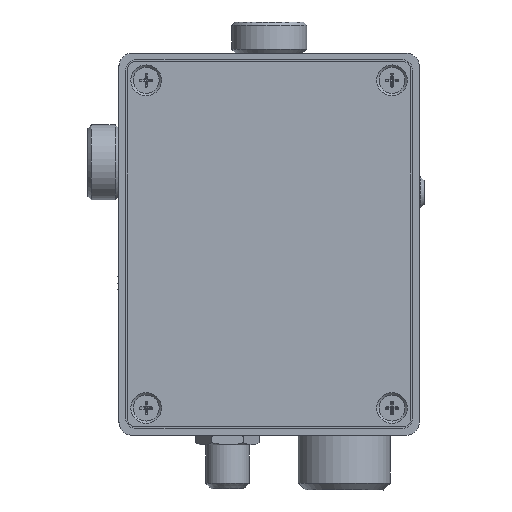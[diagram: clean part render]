
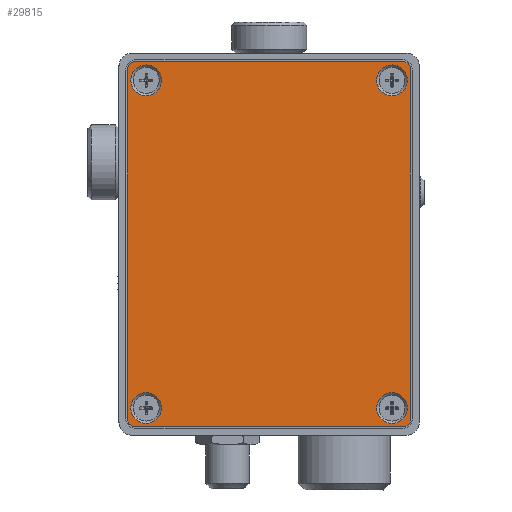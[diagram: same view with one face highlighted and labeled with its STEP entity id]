
A CAD part, front view. The second image highlights one B-rep face of the part: STEP entity #29815.
In plain terms, the highlighted planar face has unit normal (0, -1, 0).
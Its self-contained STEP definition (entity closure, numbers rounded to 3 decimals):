
#1949=FACE_BOUND('',#10383,.T.);
#1950=FACE_BOUND('',#10384,.T.);
#1951=FACE_BOUND('',#10385,.T.);
#1952=FACE_BOUND('',#10386,.T.);
#4481=LINE('',#57416,#7083);
#4482=LINE('',#57420,#7084);
#4483=LINE('',#57424,#7085);
#4484=LINE('',#57427,#7086);
#7083=VECTOR('',#36189,10.);
#7084=VECTOR('',#36192,10.);
#7085=VECTOR('',#36195,10.);
#7086=VECTOR('',#36198,10.);
#8700=FACE_OUTER_BOUND('',#10382,.T.);
#10382=EDGE_LOOP('',(#25559,#25560,#25561,#25562,#25563,#25564,#25565,#25566));
#10383=EDGE_LOOP('',(#25567,#25568));
#10384=EDGE_LOOP('',(#25569,#25570));
#10385=EDGE_LOOP('',(#25571,#25572));
#10386=EDGE_LOOP('',(#25573,#25574));
#10744=CIRCLE('',#31115,1.);
#10745=CIRCLE('',#31116,1.);
#10746=CIRCLE('',#31117,1.);
#10747=CIRCLE('',#31118,1.);
#10748=CIRCLE('',#31119,2.25);
#10749=CIRCLE('',#31120,2.25);
#10750=CIRCLE('',#31121,2.25);
#10751=CIRCLE('',#31122,2.25);
#10752=CIRCLE('',#31123,2.25);
#10753=CIRCLE('',#31124,2.25);
#10754=CIRCLE('',#31125,2.25);
#10755=CIRCLE('',#31126,2.25);
#13457=VERTEX_POINT('',#57412);
#13458=VERTEX_POINT('',#57413);
#13459=VERTEX_POINT('',#57415);
#13460=VERTEX_POINT('',#57417);
#13461=VERTEX_POINT('',#57419);
#13462=VERTEX_POINT('',#57421);
#13463=VERTEX_POINT('',#57423);
#13464=VERTEX_POINT('',#57425);
#13465=VERTEX_POINT('',#57428);
#13466=VERTEX_POINT('',#57429);
#13467=VERTEX_POINT('',#57432);
#13468=VERTEX_POINT('',#57433);
#13469=VERTEX_POINT('',#57436);
#13470=VERTEX_POINT('',#57437);
#13471=VERTEX_POINT('',#57440);
#13472=VERTEX_POINT('',#57441);
#17528=EDGE_CURVE('',#13457,#13458,#10744,.T.);
#17529=EDGE_CURVE('',#13457,#13459,#4481,.T.);
#17530=EDGE_CURVE('',#13460,#13459,#10745,.T.);
#17531=EDGE_CURVE('',#13460,#13461,#4482,.T.);
#17532=EDGE_CURVE('',#13462,#13461,#10746,.T.);
#17533=EDGE_CURVE('',#13462,#13463,#4483,.T.);
#17534=EDGE_CURVE('',#13464,#13463,#10747,.T.);
#17535=EDGE_CURVE('',#13464,#13458,#4484,.T.);
#17536=EDGE_CURVE('',#13465,#13466,#10748,.T.);
#17537=EDGE_CURVE('',#13466,#13465,#10749,.T.);
#17538=EDGE_CURVE('',#13467,#13468,#10750,.T.);
#17539=EDGE_CURVE('',#13468,#13467,#10751,.T.);
#17540=EDGE_CURVE('',#13469,#13470,#10752,.T.);
#17541=EDGE_CURVE('',#13470,#13469,#10753,.T.);
#17542=EDGE_CURVE('',#13471,#13472,#10754,.T.);
#17543=EDGE_CURVE('',#13472,#13471,#10755,.T.);
#25559=ORIENTED_EDGE('',*,*,#17528,.F.);
#25560=ORIENTED_EDGE('',*,*,#17529,.T.);
#25561=ORIENTED_EDGE('',*,*,#17530,.F.);
#25562=ORIENTED_EDGE('',*,*,#17531,.T.);
#25563=ORIENTED_EDGE('',*,*,#17532,.F.);
#25564=ORIENTED_EDGE('',*,*,#17533,.T.);
#25565=ORIENTED_EDGE('',*,*,#17534,.F.);
#25566=ORIENTED_EDGE('',*,*,#17535,.T.);
#25567=ORIENTED_EDGE('',*,*,#17536,.T.);
#25568=ORIENTED_EDGE('',*,*,#17537,.T.);
#25569=ORIENTED_EDGE('',*,*,#17538,.T.);
#25570=ORIENTED_EDGE('',*,*,#17539,.T.);
#25571=ORIENTED_EDGE('',*,*,#17540,.T.);
#25572=ORIENTED_EDGE('',*,*,#17541,.T.);
#25573=ORIENTED_EDGE('',*,*,#17542,.T.);
#25574=ORIENTED_EDGE('',*,*,#17543,.T.);
#26835=PLANE('',#31114);
#29815=ADVANCED_FACE('',(#8700,#1949,#1950,#1951,#1952),#26835,.T.);
#31114=AXIS2_PLACEMENT_3D('',#57411,#36185,#36186);
#31115=AXIS2_PLACEMENT_3D('',#57414,#36187,#36188);
#31116=AXIS2_PLACEMENT_3D('',#57418,#36190,#36191);
#31117=AXIS2_PLACEMENT_3D('',#57422,#36193,#36194);
#31118=AXIS2_PLACEMENT_3D('',#57426,#36196,#36197);
#31119=AXIS2_PLACEMENT_3D('',#57430,#36199,#36200);
#31120=AXIS2_PLACEMENT_3D('',#57431,#36201,#36202);
#31121=AXIS2_PLACEMENT_3D('',#57434,#36203,#36204);
#31122=AXIS2_PLACEMENT_3D('',#57435,#36205,#36206);
#31123=AXIS2_PLACEMENT_3D('',#57438,#36207,#36208);
#31124=AXIS2_PLACEMENT_3D('',#57439,#36209,#36210);
#31125=AXIS2_PLACEMENT_3D('',#57442,#36211,#36212);
#31126=AXIS2_PLACEMENT_3D('',#57443,#36213,#36214);
#36185=DIRECTION('center_axis',(0.,-1.,0.));
#36186=DIRECTION('ref_axis',(0.,0.,
1.));
#36187=DIRECTION('center_axis',(0.,1.,0.));
#36188=DIRECTION('ref_axis',(0.707,0.,-0.707));
#36189=DIRECTION('',(0.,0.,1.));
#36190=DIRECTION('center_axis',(0.,1.,0.));
#36191=DIRECTION('ref_axis',(0.707,0.,0.707));
#36192=DIRECTION('',(-1.,0.,0.));
#36193=DIRECTION('center_axis',(0.,1.,0.));
#36194=DIRECTION('ref_axis',(-0.707,0.,0.707));
#36195=DIRECTION('',(0.,0.,-1.));
#36196=DIRECTION('center_axis',(0.,1.,0.));
#36197=DIRECTION('ref_axis',(-0.707,0.,-0.707));
#36198=DIRECTION('',(1.,0.,0.));
#36199=DIRECTION('center_axis',(0.,1.,0.));
#36200=DIRECTION('ref_axis',(0.,0.,
1.));
#36201=DIRECTION('center_axis',(0.,1.,0.));
#36202=DIRECTION('ref_axis',(0.,0.,
1.));
#36203=DIRECTION('center_axis',(0.,1.,0.));
#36204=DIRECTION('ref_axis',(0.,0.,
1.));
#36205=DIRECTION('center_axis',(0.,1.,0.));
#36206=DIRECTION('ref_axis',(0.,0.,
1.));
#36207=DIRECTION('center_axis',(0.,1.,0.));
#36208=DIRECTION('ref_axis',(0.,0.,
1.));
#36209=DIRECTION('center_axis',(0.,1.,0.));
#36210=DIRECTION('ref_axis',(0.,0.,
1.));
#36211=DIRECTION('center_axis',(0.,1.,0.));
#36212=DIRECTION('ref_axis',(0.,0.,
1.));
#36213=DIRECTION('center_axis',(0.,1.,0.));
#36214=DIRECTION('ref_axis',(0.,0.,
1.));
#57411=CARTESIAN_POINT('Origin',(21.6,-0.3,28.1));
#57412=CARTESIAN_POINT('',(42.3,-0.3,2.4));
#57413=CARTESIAN_POINT('',(41.3,-0.3,1.4));
#57414=CARTESIAN_POINT('Origin',(41.3,-0.3,2.4));
#57415=CARTESIAN_POINT('',(42.3,-0.3,53.8));
#57416=CARTESIAN_POINT('',(42.3,-0.3,54.8));
#57417=CARTESIAN_POINT('',(41.3,-0.3,54.8));
#57418=CARTESIAN_POINT('Origin',(41.3,-0.3,53.8));
#57419=CARTESIAN_POINT('',(1.9,-0.3,54.8));
#57420=CARTESIAN_POINT('',(0.9,-0.3,54.8));
#57421=CARTESIAN_POINT('',(0.9,-0.3,53.8));
#57422=CARTESIAN_POINT('Origin',(1.9,-0.3,53.8));
#57423=CARTESIAN_POINT('',(0.9,-0.3,2.4));
#57424=CARTESIAN_POINT('',(0.9,-0.3,1.4));
#57425=CARTESIAN_POINT('',(1.9,-0.3,1.4));
#57426=CARTESIAN_POINT('Origin',(1.9,-0.3,2.4));
#57427=CARTESIAN_POINT('',(42.3,-0.3,1.4));
#57428=CARTESIAN_POINT('',(3.6,-0.3,6.35));
#57429=CARTESIAN_POINT('',(3.6,-0.3,1.85));
#57430=CARTESIAN_POINT('Origin',(3.6,-0.3,4.1));
#57431=CARTESIAN_POINT('Origin',(3.6,-0.3,4.1));
#57432=CARTESIAN_POINT('',(39.6,-0.3,54.35));
#57433=CARTESIAN_POINT('',(39.6,-0.3,49.85));
#57434=CARTESIAN_POINT('Origin',(39.6,-0.3,52.1));
#57435=CARTESIAN_POINT('Origin',(39.6,-0.3,52.1));
#57436=CARTESIAN_POINT('',(39.6,-0.3,6.35));
#57437=CARTESIAN_POINT('',(39.6,-0.3,1.85));
#57438=CARTESIAN_POINT('Origin',(39.6,-0.3,4.1));
#57439=CARTESIAN_POINT('Origin',(39.6,-0.3,4.1));
#57440=CARTESIAN_POINT('',(3.6,-0.3,54.35));
#57441=CARTESIAN_POINT('',(3.6,-0.3,49.85));
#57442=CARTESIAN_POINT('Origin',(3.6,-0.3,52.1));
#57443=CARTESIAN_POINT('Origin',(3.6,-0.3,52.1));
